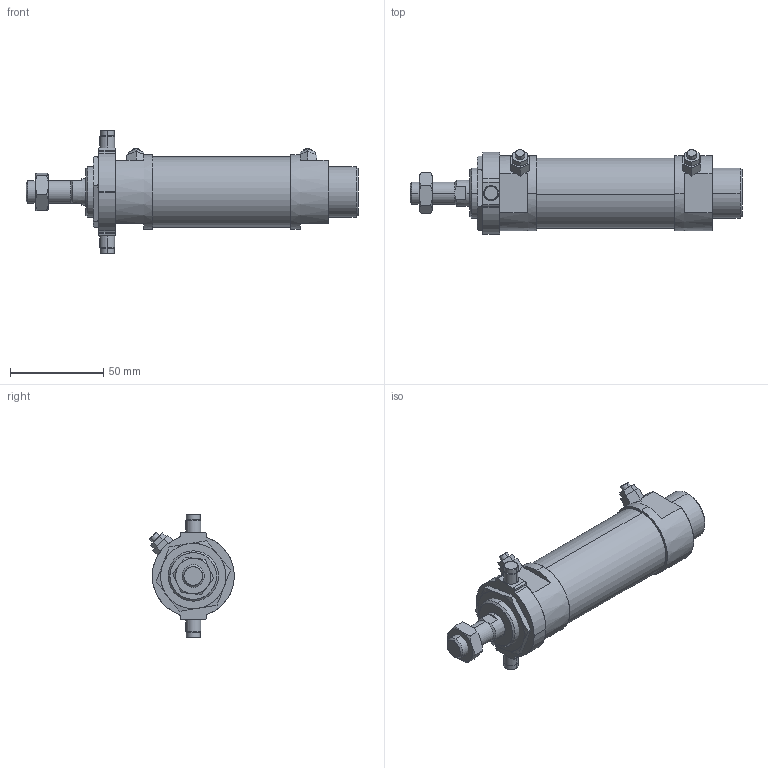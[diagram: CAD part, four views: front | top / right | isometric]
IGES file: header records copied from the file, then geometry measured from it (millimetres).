
Start section: SolidWorks IGES file using analytic representation for surfaces
Global section: file name: C:\Users\Toshiba\Desktop\JG2-32-25-T.IGS; native system: SolidWorks 2014; preprocessor: SolidWorks 2014; author: Toshiba; date: 160419.085104; units: millimetre
Bounding box: 178 x 45.33 x 66 mm (x, y, z)
Surface area: 33973.1 mm2 (no closed solid volume)
Topology: 0 solids, 0 shells, 168 faces, 2442 edges, 2438 vertices
Faces by surface type: bspline 101, revolution 67
